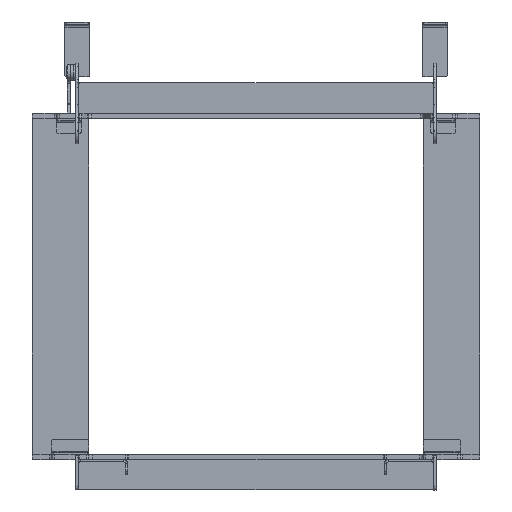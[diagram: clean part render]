
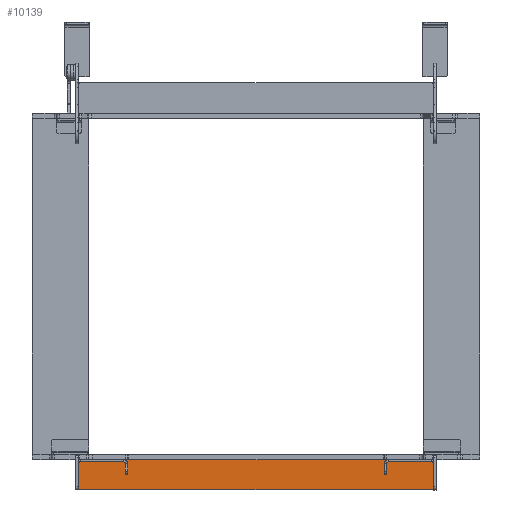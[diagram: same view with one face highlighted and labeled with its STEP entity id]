
A CAD part, front view. The second image highlights one B-rep face of the part: STEP entity #10139.
In plain terms, the highlighted planar face has unit normal (0, -1, 0).
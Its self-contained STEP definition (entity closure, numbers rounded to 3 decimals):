
#279=PLANE('',#11059);
#977=FACE_OUTER_BOUND('',#1506,.T.);
#1506=EDGE_LOOP('',(#8654,#8655,#8656,#8657,#8658,#8659,#8660,#8661,#8662,
#8663,#8664,#8665,#8666,#8667));
#2262=LINE('',#16111,#3233);
#2263=LINE('',#16113,#3234);
#2268=LINE('',#16133,#3239);
#2273=LINE('',#16148,#3244);
#2274=LINE('',#16149,#3245);
#2300=LINE('',#16247,#3271);
#2321=LINE('',#16311,#3292);
#2409=LINE('',#16686,#3380);
#2412=LINE('',#16698,#3383);
#2413=LINE('',#16699,#3384);
#3233=VECTOR('',#13166,10.);
#3234=VECTOR('',#13167,10.);
#3239=VECTOR('',#13188,10.);
#3244=VECTOR('',#13201,10.);
#3245=VECTOR('',#13202,10.);
#3271=VECTOR('',#13284,10.);
#3292=VECTOR('',#13349,10.);
#3380=VECTOR('',#13591,10.);
#3383=VECTOR('',#13602,10.);
#3384=VECTOR('',#13603,10.);
#3886=CIRCLE('',#10920,2.);
#3891=CIRCLE('',#10928,2.);
#3936=CIRCLE('',#11009,3.);
#3956=CIRCLE('',#11060,3.);
#4665=VERTEX_POINT('',#16108);
#4666=VERTEX_POINT('',#16110);
#4667=VERTEX_POINT('',#16112);
#4669=VERTEX_POINT('',#16118);
#4673=VERTEX_POINT('',#16130);
#4676=VERTEX_POINT('',#16138);
#4679=VERTEX_POINT('',#16145);
#4680=VERTEX_POINT('',#16147);
#4711=VERTEX_POINT('',#16244);
#4712=VERTEX_POINT('',#16246);
#4733=VERTEX_POINT('',#16310);
#4807=VERTEX_POINT('',#16685);
#4811=VERTEX_POINT('',#16695);
#4812=VERTEX_POINT('',#16697);
#5913=EDGE_CURVE('',#4665,#4666,#2262,.T.);
#5914=EDGE_CURVE('',#4666,#4667,#2263,.T.);
#5918=EDGE_CURVE('',#4669,#4665,#3886,.T.);
#5924=EDGE_CURVE('',#4673,#4669,#2268,.T.);
#5928=EDGE_CURVE('',#4676,#4673,#3891,.T.);
#5931=EDGE_CURVE('',#4679,#4680,#2273,.T.);
#5932=EDGE_CURVE('',#4680,#4676,#2274,.T.);
#5976=EDGE_CURVE('',#4712,#4711,#2300,.T.);
#6009=EDGE_CURVE('',#4733,#4712,#2321,.T.);
#6058=EDGE_CURVE('',#4711,#4667,#3936,.T.);
#6142=EDGE_CURVE('',#4733,#4807,#2409,.T.);
#6147=EDGE_CURVE('',#4679,#4811,#3956,.T.);
#6148=EDGE_CURVE('',#4811,#4812,#2412,.T.);
#6149=EDGE_CURVE('',#4812,#4807,#2413,.T.);
#8654=ORIENTED_EDGE('',*,*,#6147,.T.);
#8655=ORIENTED_EDGE('',*,*,#6148,.T.);
#8656=ORIENTED_EDGE('',*,*,#6149,.T.);
#8657=ORIENTED_EDGE('',*,*,#6142,.F.);
#8658=ORIENTED_EDGE('',*,*,#6009,.T.);
#8659=ORIENTED_EDGE('',*,*,#5976,.T.);
#8660=ORIENTED_EDGE('',*,*,#6058,.T.);
#8661=ORIENTED_EDGE('',*,*,#5914,.F.);
#8662=ORIENTED_EDGE('',*,*,#5913,.F.);
#8663=ORIENTED_EDGE('',*,*,#5918,.F.);
#8664=ORIENTED_EDGE('',*,*,#5924,.F.);
#8665=ORIENTED_EDGE('',*,*,#5928,.F.);
#8666=ORIENTED_EDGE('',*,*,#5932,.F.);
#8667=ORIENTED_EDGE('',*,*,#5931,.F.);
#10139=ADVANCED_FACE('',(#977),#279,.F.);
#10920=AXIS2_PLACEMENT_3D('',#16120,#13174,#13175);
#10928=AXIS2_PLACEMENT_3D('',#16140,#13195,#13196);
#11009=AXIS2_PLACEMENT_3D('',#16410,#13437,#13438);
#11059=AXIS2_PLACEMENT_3D('',#16694,#13598,#13599);
#11060=AXIS2_PLACEMENT_3D('',#16696,#13600,#13601);
#13166=DIRECTION('',(0.,0.,1.));
#13167=DIRECTION('',(0.,0.,1.));
#13174=DIRECTION('center_axis',(0.,1.,0.));
#13175=DIRECTION('ref_axis',(-0.707,0.,-0.707));
#13188=DIRECTION('',(-1.,0.,0.));
#13195=DIRECTION('center_axis',(0.,1.,0.));
#13196=DIRECTION('ref_axis',(0.707,0.,-0.707));
#13201=DIRECTION('',(0.,0.,-1.));
#13202=DIRECTION('',(0.,0.,-1.));
#13284=DIRECTION('',(-1.,0.,0.));
#13349=DIRECTION('',(0.,0.,-1.));
#13437=DIRECTION('center_axis',(0.,-1.,0.));
#13438=DIRECTION('ref_axis',(0.,0.,
1.));
#13591=DIRECTION('',(1.,0.,0.));
#13598=DIRECTION('center_axis',(0.,1.,0.));
#13599=DIRECTION('ref_axis',(1.,0.,0.));
#13600=DIRECTION('center_axis',(0.,-1.,0.));
#13601=DIRECTION('ref_axis',(0.,0.,
1.));
#13602=DIRECTION('',(-1.,0.,0.));
#13603=DIRECTION('',(0.,0.,1.));
#16108=CARTESIAN_POINT('',(-291.5,-101.5,-608.));
#16110=CARTESIAN_POINT('',(-291.5,-101.5,-607.));
#16111=CARTESIAN_POINT('',(-291.5,-101.5,-610.));
#16112=CARTESIAN_POINT('',(-291.5,-101.5,-567.));
#16113=CARTESIAN_POINT('',(-291.5,-101.5,-610.));
#16118=CARTESIAN_POINT('',(-289.5,-101.5,-610.));
#16120=CARTESIAN_POINT('Origin',(-289.5,-101.5,-608.));
#16130=CARTESIAN_POINT('',(289.5,-101.5,-610.));
#16133=CARTESIAN_POINT('',(291.5,-101.5,-610.));
#16138=CARTESIAN_POINT('',(291.5,-101.5,-608.));
#16140=CARTESIAN_POINT('Origin',(289.5,-101.5,-608.));
#16145=CARTESIAN_POINT('',(291.5,-101.5,-567.));
#16147=CARTESIAN_POINT('',(291.5,-101.5,-607.));
#16148=CARTESIAN_POINT('',(291.5,-101.5,-560.));
#16149=CARTESIAN_POINT('',(291.5,-101.5,-560.));
#16244=CARTESIAN_POINT('',(-288.5,-101.5,-564.));
#16246=CARTESIAN_POINT('',(-286.125,-101.5,-564.));
#16247=CARTESIAN_POINT('',(-132.75,-101.5,-564.));
#16310=CARTESIAN_POINT('',(-286.125,-101.5,-560.));
#16311=CARTESIAN_POINT('',(-286.125,-101.5,-560.));
#16410=CARTESIAN_POINT('Origin',(-288.5,-101.5,-567.));
#16685=CARTESIAN_POINT('',(286.125,-101.5,-560.));
#16686=CARTESIAN_POINT('',(0.,-101.5,-560.));
#16694=CARTESIAN_POINT('Origin',(0.,-101.5,
-585.));
#16695=CARTESIAN_POINT('',(288.5,-101.5,-564.));
#16696=CARTESIAN_POINT('Origin',(288.5,-101.5,-567.));
#16697=CARTESIAN_POINT('',(286.125,-101.5,-564.));
#16698=CARTESIAN_POINT('',(132.75,-101.5,-564.));
#16699=CARTESIAN_POINT('',(286.125,-101.5,-560.));
